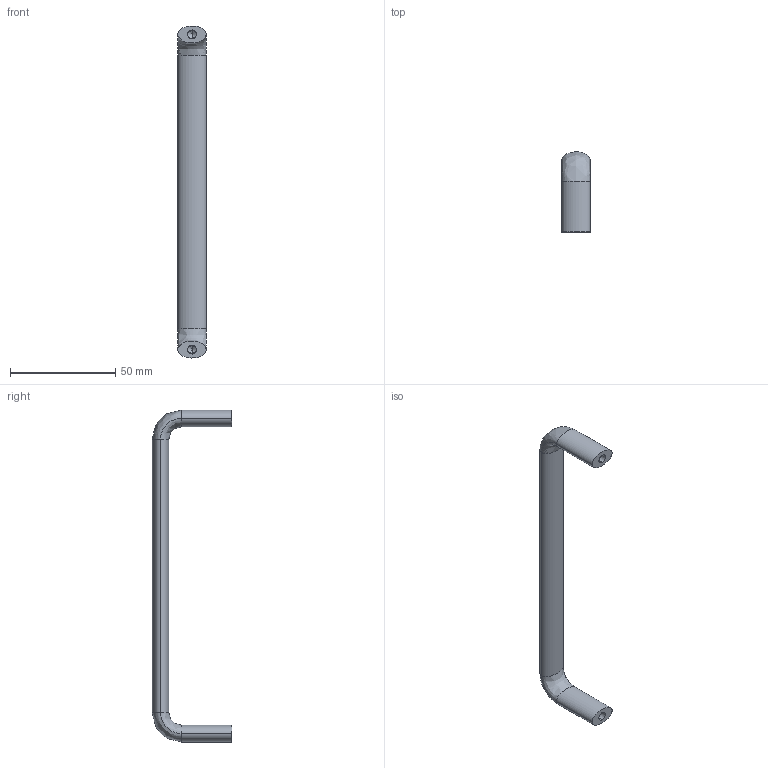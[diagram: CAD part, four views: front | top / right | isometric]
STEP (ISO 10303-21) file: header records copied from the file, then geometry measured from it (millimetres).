
FILE_DESCRIPTION (( 'STEP AP203' ), '1' );
FILE_NAME ('E02-516150.STEP', '2024-10-29T02:56:53', ( '' ), ( '' ), 'SwSTEP 2.0', 'SolidWorks 2021', '' );
FILE_SCHEMA (( 'CONFIG_CONTROL_DESIGN' ));
Length unit declared in the file: millimetre
Products named in the file (1): E02-516150
Bounding box: 13.47 x 38 x 158 mm (x, y, z)
Volume: 17355.8 mm3; surface area: 7695.9 mm2
Topology: 1 solids, 1 shells, 20 faces, 42 edges, 22 vertices
Faces by surface type: bspline 10, cylinder 4, cone 4, plane 2
Entity records: 707 total; most frequent: CARTESIAN_POINT 321, ORIENTED_EDGE 76, DIRECTION 46, EDGE_CURVE 38, VERTEX_POINT 22, EDGE_LOOP 22, ADVANCED_FACE 20, FACE_OUTER_BOUND 20
